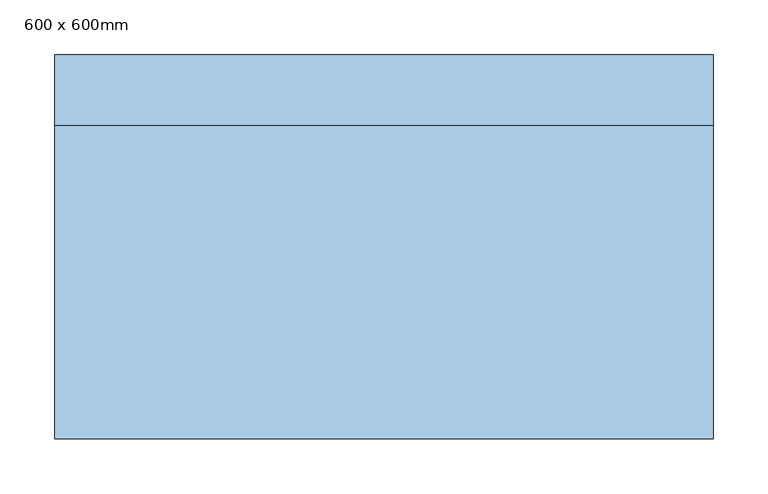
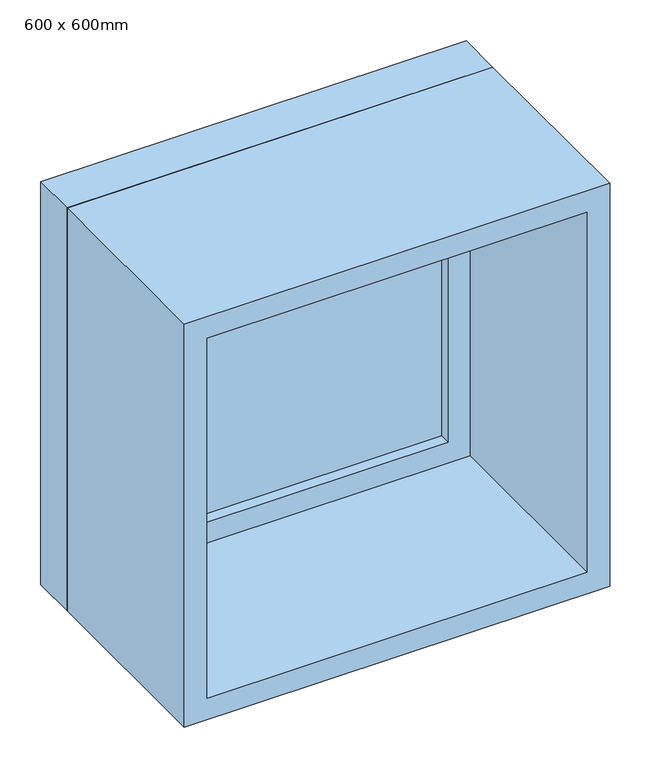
"""IFC4 building model written with IfcOpenShell, lengths in millimetres: window geometry, Pevne : 600 x 600mm."""

from ifc_helpers import new_model, si_unit, frame, origin, place, context, project, spatial, polyline, outline, extrude, source, transform, mapped, element, save


def window_600_x_600mm_7c1dbeb3(model_context):
    return source(origin(), model_context, "Body", "SweptSolid", [
        extrude(outline(polyline([(-237.0, 152.0), (237.0, 152.0), (237.0, 140.0), (-237.0, 140.0), (-237.0, 152.0)])), frame((0.0, 0.0, 963.0), z_axis=(0.0, 0.0, 1.0), x_axis=(1.0, 0.0, 0.0)), (0.0, 0.0, 1.0), 474.0),
        extrude(outline(polyline([(1481.0, -281.0), (919.0, -281.0), (919.0, 281.0), (1481.0, 281.0), (1481.0, -281.0)]), holes=[polyline([(1437.0, -237.0), (1437.0, 237.0), (963.0, 237.0), (963.0, -237.0), (1437.0, -237.0)])]), frame((0.0, 124.0, 0.0), z_axis=(0.0, 1.0, 0.0), x_axis=(0.0, 0.0, 1.0)), (0.0, 0.0, 1.0), 44.0),
        extrude(outline(polyline([(1500.0, -300.0), (900.0, -300.0), (900.0, 300.0), (1500.0, 300.0), (1500.0, -300.0)]), holes=[polyline([(1481.0, -281.0), (1481.0, 281.0), (919.0, 281.0), (919.0, -281.0), (1481.0, -281.0)])]), frame((0.0, 124.0, 0.0), z_axis=(0.0, 1.0, 0.0), x_axis=(0.0, 0.0, 1.0)), (0.0, 0.0, 1.0), 64.0),
        extrude(outline(polyline([(1500.0, -300.0), (900.0, -300.0), (900.0, 300.0), (1500.0, 300.0), (1500.0, -300.0)]), holes=[polyline([(1468.0, -268.0), (1468.0, 268.0), (932.0, 268.0), (932.0, -268.0), (1468.0, -268.0)])]), frame((0.0, -162.0, 0.0), z_axis=(0.0, 1.0, 0.0), x_axis=(0.0, 0.0, 1.0)), (0.0, 0.0, 1.0), 286.0),
    ])


if __name__ == "__main__":
    model = new_model("IFC4")
    model_context = context("Model", 3, world=origin())
    ifc_project = project(units=[si_unit("LENGTHUNIT", "METRE", prefix="MILLI")], contexts=[model_context])
    site = spatial("IfcSite", under=ifc_project)
    building = spatial("IfcBuilding", under=site)
    placement = place(None, origin())
    window_600_x_600mm_shape = window_600_x_600mm_7c1dbeb3(model_context)
    element("IfcWindow", 1, ObjectType="Pevne : 600 x 600mm", at=placement, inside=building, context=model_context, shape_type="MappedRepresentation", body=[
        mapped(window_600_x_600mm_shape, transform((0.0, 0.0, 0.0), x_axis=(1.0, 0.0, 0.0), y_axis=(0.0, 1.0, 0.0), z_axis=(0.0, 0.0, 1.0))),
    ])
    save(model, "model.ifc")
